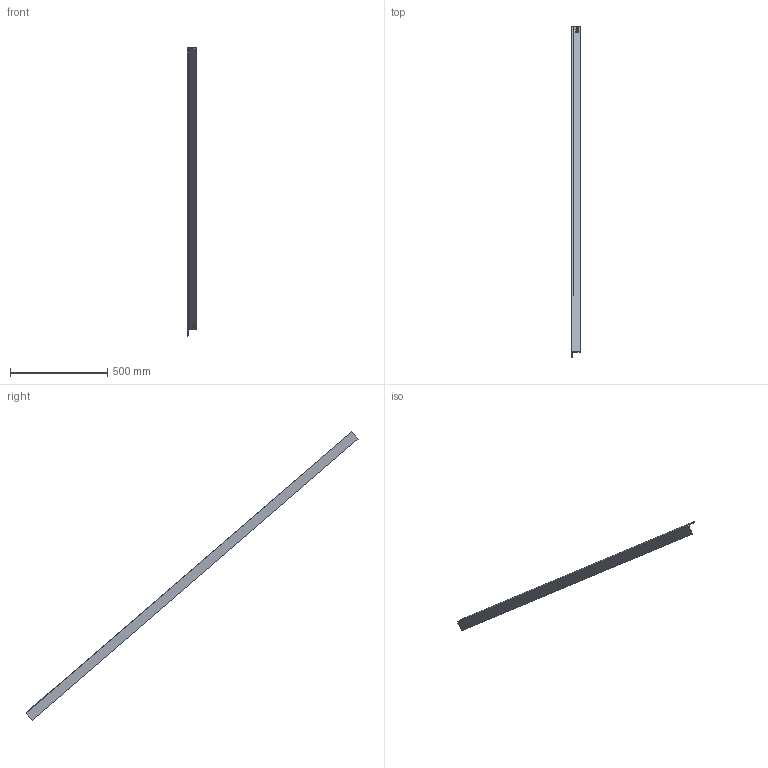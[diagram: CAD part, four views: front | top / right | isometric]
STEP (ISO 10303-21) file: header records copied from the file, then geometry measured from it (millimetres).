
FILE_DESCRIPTION (( 'STEP AP214' ), '1' );
FILE_NAME ('CCJ029-REP.045 - CONTREVENTEMENT B5-C5.STEP', '2024-01-10T14:39:06', ( '' ), ( '' ), 'SwSTEP 2.0', 'SolidWorks 2021', '' );
FILE_SCHEMA (( 'AUTOMOTIVE_DESIGN' ));
Length unit declared in the file: millimetre
Products named in the file (1): CCJ029-REP.045 - CONTREVENTEMENT B5-C5
Bounding box: 50 x 1705.57 x 1481.83 mm (x, y, z)
Volume: 1061245.5 mm3; surface area: 429765 mm2
Topology: 1 solids, 1 shells, 52 faces, 135 edges, 90 vertices
Faces by surface type: plane 32, bspline 17, cylinder 3
Entity records: 2785 total; most frequent: CARTESIAN_POINT 1583, ORIENTED_EDGE 270, DIRECTION 179, EDGE_CURVE 135, LINE 95, VECTOR 95, VERTEX_POINT 90, EDGE_LOOP 57
